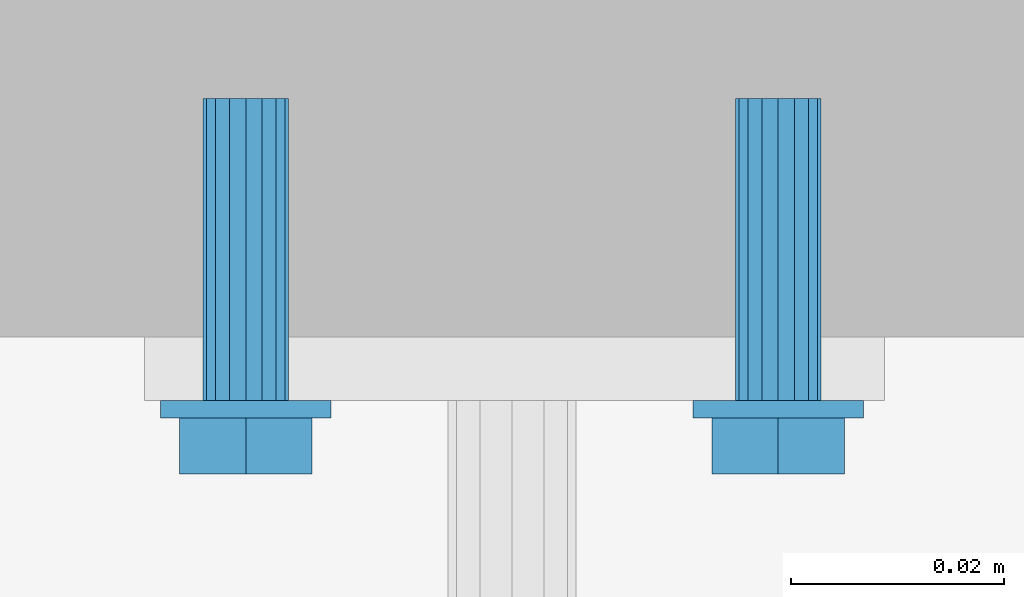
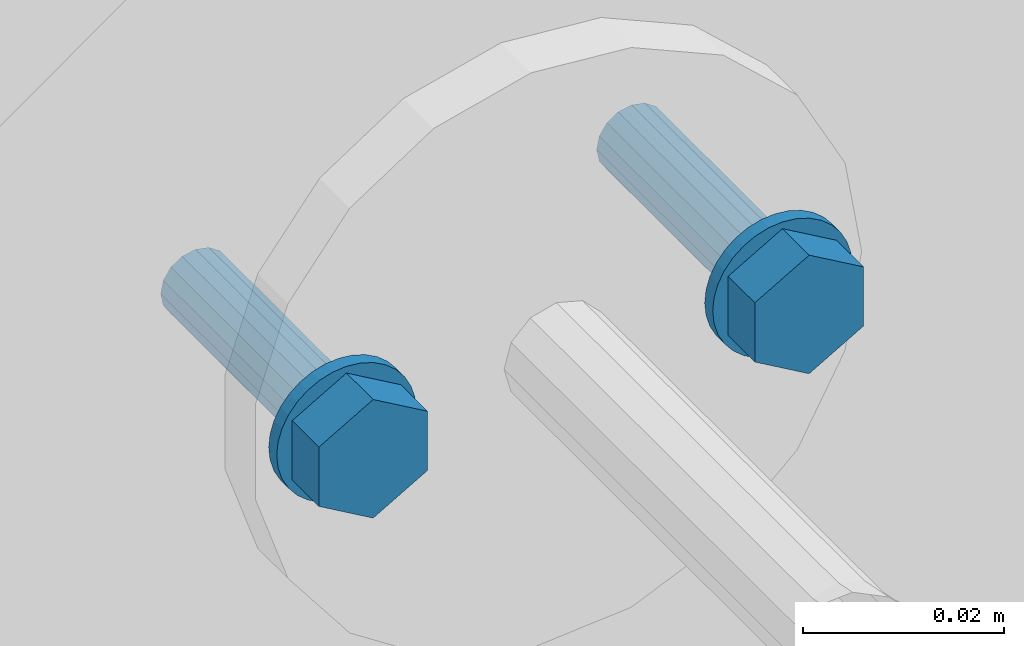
# One storey, part 367 of 410: 1 mechanical fastener.
"""IFC2X3 building model written with IfcOpenShell, lengths in millimetres."""

import ifcopenshell
import ifcopenshell.guid

model = None  # the IFC model being written
_history = None  # IfcOwnerHistory: only IFC2X3 demands one
_inside = {}  # id of a spatial element -> (the spatial element, [elements in it])
_under = {}  # id of a project, library or spatial element -> (it, [spatial elements below it])
_declared = {}  # id of a project -> (the project, [libraries it declares])
_typed = {}  # id of a type object -> (the type object, [elements of that type])
_made_of = {}  # id of a material, layer set ... -> (it, [elements and type objects made of it])


def new_model(schema):
    """Start an empty IFC model of exactly this schema.

    Asked for "IFC4X3", IfcOpenShell would pick the latest addendum, in which some entities
    have other attributes; the version numbers below select the first issue.
    IFC2X3 requires an IfcOwnerHistory on every rooted entity: one is made here for all.
    """
    global model, _history
    if schema == "IFC4X3":
        model = ifcopenshell.file(schema_version=(4, 3, 0, 0))
    else:
        model = ifcopenshell.file(schema=schema)
    _inside.clear()
    _under.clear()
    _declared.clear()
    _typed.clear()
    _made_of.clear()
    _history = None
    if model.schema == "IFC2X3":
        org = make("IfcOrganization", Name="unknown")
        user = make(
            "IfcPersonAndOrganization",
            ThePerson=make("IfcPerson", FamilyName="unknown"),
            TheOrganization=org,
        )
        app = make(
            "IfcApplication",
            ApplicationDeveloper=org,
            Version="unknown",
            ApplicationFullName="unknown",
            ApplicationIdentifier="unknown",
        )
        _history = make(
            "IfcOwnerHistory",
            OwningUser=user,
            OwningApplication=app,
            ChangeAction="ADDED",
            CreationDate=0,
        )
    return model


def make(cls, **values):
    """One entity of the class cls with the attributes given. An attribute that is None is left unset."""
    return model.create_entity(
        cls, **{name: value for name, value in values.items() if value is not None}
    )


def entity(cls, *values):
    """Any entity or typed value of the class cls, its attributes in the order of the schema. None: left unset."""
    e = model.create_entity(cls)
    for i, value in enumerate(values):
        if value is not None:
            e[i] = value
    return e


def rooted(cls, **values):
    """An entity with a GlobalId (a new one), such as an element, a storey or a relation."""
    return make(cls, GlobalId=ifcopenshell.guid.new(), OwnerHistory=_history, **values)


def si_unit(unit_type, name, prefix=None):
    """IfcSIUnit, for example si_unit("LENGTHUNIT", "METRE", prefix="MILLI")."""
    return make("IfcSIUnit", UnitType=unit_type, Prefix=prefix, Name=name)


def converted_unit(unit_type, name, factor, base, dimensions=None, offset=None):
    """IfcConversionBasedUnit, such as the inch: factor (a typed value) times the base unit."""
    return make(
        "IfcConversionBasedUnit"
        if offset is None
        else "IfcConversionBasedUnitWithOffset",
        ConversionOffset=offset,
        Dimensions=None
        if dimensions is None
        else entity("IfcDimensionalExponents", *dimensions),
        UnitType=unit_type,
        Name=name,
        ConversionFactor=make(
            "IfcMeasureWithUnit", ValueComponent=factor, UnitComponent=base
        ),
    )


def assignment(units):
    """IfcUnitAssignment: the units of a project."""
    return None if units is None else make("IfcUnitAssignment", Units=units)


def point(xyz):
    """IfcCartesianPoint."""
    return None if xyz is None else make("IfcCartesianPoint", Coordinates=xyz)


def direction(xyz):
    """IfcDirection."""
    return None if xyz is None else make("IfcDirection", DirectionRatios=xyz)


def frame(location, z_axis=None, x_axis=None):
    """IfcAxis2Placement3D, a coordinate frame: its origin and axes. An axis left out is left unset."""
    return make(
        "IfcAxis2Placement3D",
        Location=point(location),
        Axis=direction(z_axis),
        RefDirection=direction(x_axis),
    )


def origin_with_axes():
    """The frame at (0, 0, 0) with the z axis (0, 0, 1) and the x axis (1, 0, 0) written out."""
    return frame((0.0, 0.0, 0.0), z_axis=(0.0, 0.0, 1.0), x_axis=(1.0, 0.0, 0.0))


def place(relative_to, where):
    """IfcLocalPlacement: puts the frame where relative to a parent placement (None: the world)."""
    return make(
        "IfcLocalPlacement", PlacementRelTo=relative_to, RelativePlacement=where
    )


def context(
    kind, dimensions, precision=None, world=None, true_north=None, identifier=None
):
    """IfcGeometricRepresentationContext, for example the 3D "Model" context."""
    return make(
        "IfcGeometricRepresentationContext",
        ContextIdentifier=identifier,
        ContextType=kind,
        CoordinateSpaceDimension=dimensions,
        Precision=precision,
        WorldCoordinateSystem=world,
        TrueNorth=true_north,
    )


def project(units=None, contexts=None):
    """IfcProject with its units and contexts."""
    return rooted(
        "IfcProject",
        Name="project",
        RepresentationContexts=contexts,
        UnitsInContext=assignment(units),
    )


def spatial(cls, under=None, at=None, **own):
    """A site, building, storey or space (cls), placed at a placement, below another one or the project."""
    s = rooted(cls, ObjectPlacement=at, **own)
    if under is not None:
        _under.setdefault(under.id(), (under, []))[1].append(s)
    return s


def faces_of(points, faces, orient=None, outer=None):
    """IfcFace entities. A face is a list of loops; a loop is a list of indices into points, from 0.

    orient and outer hold one flag for each loop. By default every Orientation is true, the
    first loop of a face is its IfcFaceOuterBound and the others are IfcFaceBound.
    """
    made = []
    for i, loops in enumerate(faces):
        bounds = []
        for j, loop in enumerate(loops):
            is_outer = j == 0 if outer is None else outer[i][j]
            bounds.append(
                make(
                    "IfcFaceOuterBound" if is_outer else "IfcFaceBound",
                    Bound=make("IfcPolyLoop", Polygon=[points[k] for k in loop]),
                    Orientation=True if orient is None else orient[i][j],
                )
            )
        made.append(make("IfcFace", Bounds=bounds))
    return made


def faceted_brep(points, faces, orient=None, outer=None, voids=None):
    """IfcFacetedBrep: a solid bounded by flat faces; with voids (closed shells), ...WithVoids."""
    shared = [point(p) for p in points]
    hull = make("IfcClosedShell", CfsFaces=faces_of(shared, faces, orient, outer))
    if voids is None:
        return make("IfcFacetedBrep", Outer=hull)
    return make(
        "IfcFacetedBrepWithVoids",
        Outer=hull,
        Voids=[
            make(cls, CfsFaces=faces_of(shared, fs, o, b)) for cls, fs, o, b in voids
        ],
    )


def shape(context_of_items, identifier, shape_type, items):
    """IfcShapeRepresentation: the items that make up one representation, for example the "Body"."""
    return make(
        "IfcShapeRepresentation",
        ContextOfItems=context_of_items,
        RepresentationIdentifier=identifier,
        RepresentationType=shape_type,
        Items=items,
    )


def made_of(thing, what):
    """Note that an element or type object is made of a material, layer set ...; save() writes the relation."""
    if what is not None:
        _made_of.setdefault(what.id(), (what, []))[1].append(thing)
    return thing


def element(
    cls,
    number,
    at=None,
    inside=None,
    cuts=None,
    type_object=None,
    material=None,
    context=None,
    identifier="Body",
    shape_type=None,
    held_by="IfcProductDefinitionShape",
    body=None,
    shapes=None,
    **own,
):
    """One element of the class cls, such as IfcWall. Its Tag is "e" and its number.

    at: its placement. inside: the storey or other place that contains it. cuts: it is an
    opening in that element (IfcRelVoidsElement). A single representation is given by context,
    identifier, shape_type and body (its items); several are given by shapes. held_by: the class
    of the entity that holds the representations. save() writes the other relations.
    """
    e = rooted(cls, Tag="e%d" % number, ObjectPlacement=at, **own)
    if body is not None:
        shapes = [shape(context, identifier, shape_type, body)]
    if shapes is not None:
        e.Representation = make(held_by, Representations=shapes)
    if inside is not None:
        _inside.setdefault(inside.id(), (inside, []))[1].append(e)
    if cuts is not None:
        rooted(
            "IfcRelVoidsElement", RelatingBuildingElement=cuts, RelatedOpeningElement=e
        )
    if type_object is not None:
        _typed.setdefault(type_object.id(), (type_object, []))[1].append(e)
    return made_of(e, material)


def aggregate(whole, parts):
    """IfcRelAggregates: a whole, such as a stair, and the parts it consists of."""
    return rooted("IfcRelAggregates", RelatingObject=whole, RelatedObjects=parts)


def save(model, path):
    """Write the relations noted so far, then the file.

    IfcRelAggregates (storeys below a building ...), IfcRelContainedInSpatialStructure (elements
    in a storey), IfcRelDefinesByType, IfcRelAssociatesMaterial and IfcRelDeclares: one each for
    every whole, place, type object, material and project.
    """
    for whole, parts in _under.values():
        aggregate(whole, parts)
    for where, things in _inside.values():
        rooted(
            "IfcRelContainedInSpatialStructure",
            RelatedElements=things,
            RelatingStructure=where,
        )
    for kind, things in _typed.values():
        rooted("IfcRelDefinesByType", RelatedObjects=things, RelatingType=kind)
    for what, things in _made_of.values():
        rooted("IfcRelAssociatesMaterial", RelatedObjects=things, RelatingMaterial=what)
    for by, libraries in _declared.values():
        rooted("IfcRelDeclares", RelatingContext=by, RelatedDefinitions=libraries)
    model.write(path)


model = new_model("IFC2X3")

# Units and contexts
model_context = context("Model", 3, precision=1e-09, world=origin_with_axes())
ifc_project = project(units=[si_unit("LENGTHUNIT", "METRE", prefix="MILLI"), si_unit("AREAUNIT", "SQUARE_METRE"), si_unit("VOLUMEUNIT", "CUBIC_METRE"), converted_unit("PLANEANGLEUNIT", "DEGREE", entity("IfcPlaneAngleMeasure", 0.01745329), si_unit("PLANEANGLEUNIT", "RADIAN"), dimensions=[0, 0, 0, 0, 0, 0, 0])], contexts=[model_context])

# Site, building, storey
site_placement = place(None, origin_with_axes())
site = spatial("IfcSite", under=ifc_project, at=site_placement, Name="mKR Teilneubau & Sanierung BA1 - Ostfildern", CompositionType="ELEMENT")
building_placement = place(site_placement, origin_with_axes())
building = spatial("IfcBuilding", under=site, at=building_placement, Name="Struktur 1", CompositionType="ELEMENT")
storey_placement = place(building_placement, origin_with_axes())
storey = spatial("IfcBuildingStorey", under=building, at=storey_placement, Name="Default Storey", CompositionType="ELEMENT", Elevation=0.0)

# Mechanical fastener
mechanical_fastener_placement = place(None, origin_with_axes())
element("IfcMechanicalFastener", 1, at=mechanical_fastener_placement, inside=storey, ObjectType="-", NominalDiameter=8.0, NominalLength=30.0, context=model_context, shape_type="Brep", body=[
    faceted_brep([(3126.999216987, 18612.400061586, -1413.0), (3126.999216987, 18614.000061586, -1413.0), (3127.152934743, 18614.000061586, -1414.560722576), (3127.152934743, 18612.400061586, -1414.560722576), (3127.608180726, 18614.000061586, -1416.061467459), (3127.608180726, 18612.400061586, -1416.061467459), (3128.347460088, 18614.000061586, -1417.444561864), (3128.347460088, 18612.400061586, -1417.444561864), (3129.342362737, 18614.000061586, -1418.65685425), (3129.342362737, 18612.400061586, -1418.65685425), (3130.554655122, 18614.000061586, -1419.651756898), (3130.554655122, 18612.400061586, -1419.651756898), (3131.937749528, 18614.000061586, -1420.39103626), (3131.937749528, 18612.400061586, -1420.39103626), (3133.43849441, 18614.000061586, -1420.846282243), (3133.43849441, 18612.400061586, -1420.846282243), (3134.999216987, 18614.000061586, -1421.0), (3134.999216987, 18612.400061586, -1421.0), (3136.559939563, 18614.000061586, -1420.846282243), (3136.559939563, 18612.400061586, -1420.846282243), (3138.060684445, 18614.000061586, -1420.39103626), (3138.060684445, 18612.400061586, -1420.39103626), (3139.443778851, 18614.000061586, -1419.651756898), (3139.443778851, 18612.400061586, -1419.651756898), (3140.656071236, 18614.000061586, -1418.65685425), (3140.656071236, 18612.400061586, -1418.65685425), (3141.650973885, 18614.000061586, -1417.444561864), (3141.650973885, 18612.400061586, -1417.444561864), (3142.390253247, 18614.000061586, -1416.061467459), (3142.390253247, 18612.400061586, -1416.061467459), (3142.84549923, 18614.000061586, -1414.560722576), (3142.84549923, 18612.400061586, -1414.560722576), (3142.999216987, 18614.000061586, -1413.0), (3142.999216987, 18612.400061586, -1413.0), (3142.84549923, 18614.000061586, -1411.439277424), (3142.84549923, 18612.400061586, -1411.439277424), (3142.390253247, 18614.000061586, -1409.938532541), (3142.390253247, 18612.400061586, -1409.938532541), (3141.650973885, 18614.000061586, -1408.555438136), (3141.650973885, 18612.400061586, -1408.555438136), (3140.656071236, 18614.000061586, -1407.343145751), (3140.656071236, 18612.400061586, -1407.343145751), (3139.443778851, 18614.000061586, -1406.348243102), (3139.443778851, 18612.400061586, -1406.348243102), (3138.060684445, 18614.000061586, -1405.60896374), (3138.060684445, 18612.400061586, -1405.60896374), (3136.559939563, 18614.000061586, -1405.153717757), (3136.559939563, 18612.400061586, -1405.153717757), (3134.999216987, 18614.000061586, -1405.0), (3134.999216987, 18612.400061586, -1405.0), (3133.43849441, 18614.000061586, -1405.153717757), (3133.43849441, 18612.400061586, -1405.153717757), (3131.937749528, 18614.000061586, -1405.60896374), (3131.937749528, 18612.400061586, -1405.60896374), (3130.554655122, 18614.000061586, -1406.348243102), (3130.554655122, 18612.400061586, -1406.348243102), (3129.342362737, 18614.000061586, -1407.343145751), (3129.342362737, 18612.400061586, -1407.343145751), (3128.347460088, 18614.000061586, -1408.555438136), (3128.347460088, 18612.400061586, -1408.555438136), (3127.608180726, 18614.000061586, -1409.938532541), (3127.608180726, 18612.400061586, -1409.938532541), (3127.152934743, 18614.000061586, -1411.439277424), (3127.152934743, 18612.400061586, -1411.439277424)], [[[0, 1, 2, 3]], [[3, 2, 4, 5]], [[5, 4, 6, 7]], [[7, 6, 8, 9]], [[9, 8, 10, 11]], [[11, 10, 12, 13]], [[13, 12, 14, 15]], [[15, 14, 16, 17]], [[17, 16, 18, 19]], [[19, 18, 20, 21]], [[21, 20, 22, 23]], [[23, 22, 24, 25]], [[25, 24, 26, 27]], [[27, 26, 28, 29]], [[29, 28, 30, 31]], [[31, 30, 32, 33]], [[33, 32, 34, 35]], [[35, 34, 36, 37]], [[37, 36, 38, 39]], [[39, 38, 40, 41]], [[41, 40, 42, 43]], [[43, 42, 44, 45]], [[45, 44, 46, 47]], [[47, 46, 48, 49]], [[49, 48, 50, 51]], [[51, 50, 52, 53]], [[53, 52, 54, 55]], [[55, 54, 56, 57]], [[57, 56, 58, 59]], [[59, 58, 60, 61]], [[61, 60, 62, 63]], [[63, 62, 1, 0]], [[0, 3, 5, 7, 9, 11, 13, 15, 17, 19, 21, 23, 25, 27, 29, 31, 33, 35, 37, 39, 41, 43, 45, 47, 49, 51, 53, 55, 57, 59, 61, 63]], [[1, 62, 60, 58, 56, 54, 52, 50, 48, 46, 44, 42, 40, 38, 36, 34, 32, 30, 28, 26, 24, 22, 20, 18, 16, 14, 12, 10, 8, 6, 4, 2]]]),
    faceted_brep([(3076.999216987, 18612.400061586, -1413.0), (3076.999216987, 18614.000061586, -1413.0), (3077.152934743, 18614.000061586, -1414.560722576), (3077.152934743, 18612.400061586, -1414.560722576), (3077.608180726, 18614.000061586, -1416.061467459), (3077.608180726, 18612.400061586, -1416.061467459), (3078.347460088, 18614.000061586, -1417.444561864), (3078.347460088, 18612.400061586, -1417.444561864), (3079.342362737, 18614.000061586, -1418.65685425), (3079.342362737, 18612.400061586, -1418.65685425), (3080.554655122, 18614.000061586, -1419.651756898), (3080.554655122, 18612.400061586, -1419.651756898), (3081.937749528, 18614.000061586, -1420.39103626), (3081.937749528, 18612.400061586, -1420.39103626), (3083.43849441, 18614.000061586, -1420.846282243), (3083.43849441, 18612.400061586, -1420.846282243), (3084.999216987, 18614.000061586, -1421.0), (3084.999216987, 18612.400061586, -1421.0), (3086.559939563, 18614.000061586, -1420.846282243), (3086.559939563, 18612.400061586, -1420.846282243), (3088.060684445, 18614.000061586, -1420.39103626), (3088.060684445, 18612.400061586, -1420.39103626), (3089.443778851, 18614.000061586, -1419.651756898), (3089.443778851, 18612.400061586, -1419.651756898), (3090.656071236, 18614.000061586, -1418.65685425), (3090.656071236, 18612.400061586, -1418.65685425), (3091.650973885, 18614.000061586, -1417.444561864), (3091.650973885, 18612.400061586, -1417.444561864), (3092.390253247, 18614.000061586, -1416.061467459), (3092.390253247, 18612.400061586, -1416.061467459), (3092.84549923, 18614.000061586, -1414.560722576), (3092.84549923, 18612.400061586, -1414.560722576), (3092.999216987, 18614.000061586, -1413.0), (3092.999216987, 18612.400061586, -1413.0), (3092.84549923, 18614.000061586, -1411.439277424), (3092.84549923, 18612.400061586, -1411.439277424), (3092.390253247, 18614.000061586, -1409.938532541), (3092.390253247, 18612.400061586, -1409.938532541), (3091.650973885, 18614.000061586, -1408.555438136), (3091.650973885, 18612.400061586, -1408.555438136), (3090.656071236, 18614.000061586, -1407.343145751), (3090.656071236, 18612.400061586, -1407.343145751), (3089.443778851, 18614.000061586, -1406.348243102), (3089.443778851, 18612.400061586, -1406.348243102), (3088.060684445, 18614.000061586, -1405.60896374), (3088.060684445, 18612.400061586, -1405.60896374), (3086.559939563, 18614.000061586, -1405.153717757), (3086.559939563, 18612.400061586, -1405.153717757), (3084.999216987, 18614.000061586, -1405.0), (3084.999216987, 18612.400061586, -1405.0), (3083.43849441, 18614.000061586, -1405.153717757), (3083.43849441, 18612.400061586, -1405.153717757), (3081.937749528, 18614.000061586, -1405.60896374), (3081.937749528, 18612.400061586, -1405.60896374), (3080.554655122, 18614.000061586, -1406.348243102), (3080.554655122, 18612.400061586, -1406.348243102), (3079.342362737, 18614.000061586, -1407.343145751), (3079.342362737, 18612.400061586, -1407.343145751), (3078.347460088, 18614.000061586, -1408.555438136), (3078.347460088, 18612.400061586, -1408.555438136), (3077.608180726, 18614.000061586, -1409.938532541), (3077.608180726, 18612.400061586, -1409.938532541), (3077.152934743, 18614.000061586, -1411.439277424), (3077.152934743, 18612.400061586, -1411.439277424)], [[[0, 1, 2, 3]], [[3, 2, 4, 5]], [[5, 4, 6, 7]], [[7, 6, 8, 9]], [[9, 8, 10, 11]], [[11, 10, 12, 13]], [[13, 12, 14, 15]], [[15, 14, 16, 17]], [[17, 16, 18, 19]], [[19, 18, 20, 21]], [[21, 20, 22, 23]], [[23, 22, 24, 25]], [[25, 24, 26, 27]], [[27, 26, 28, 29]], [[29, 28, 30, 31]], [[31, 30, 32, 33]], [[33, 32, 34, 35]], [[35, 34, 36, 37]], [[37, 36, 38, 39]], [[39, 38, 40, 41]], [[41, 40, 42, 43]], [[43, 42, 44, 45]], [[45, 44, 46, 47]], [[47, 46, 48, 49]], [[49, 48, 50, 51]], [[51, 50, 52, 53]], [[53, 52, 54, 55]], [[55, 54, 56, 57]], [[57, 56, 58, 59]], [[59, 58, 60, 61]], [[61, 60, 62, 63]], [[63, 62, 1, 0]], [[0, 3, 5, 7, 9, 11, 13, 15, 17, 19, 21, 23, 25, 27, 29, 31, 33, 35, 37, 39, 41, 43, 45, 47, 49, 51, 53, 55, 57, 59, 61, 63]], [[1, 62, 60, 58, 56, 54, 52, 50, 48, 46, 44, 42, 40, 38, 36, 34, 32, 30, 28, 26, 24, 22, 20, 18, 16, 14, 12, 10, 8, 6, 4, 2]]]),
    faceted_brep([(3141.22593964, 18612.400061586, -1416.595), (3141.22593964, 18607.100061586, -1416.595), (3134.999216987, 18607.100061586, -1420.19), (3134.999216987, 18612.400061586, -1420.19), (3128.772494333, 18607.100061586, -1416.595), (3128.772494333, 18612.400061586, -1416.595), (3128.772494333, 18607.100061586, -1409.405), (3128.772494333, 18612.400061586, -1409.405), (3134.999216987, 18607.100061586, -1405.81), (3134.999216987, 18612.400061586, -1405.81), (3141.22593964, 18607.100061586, -1409.405), (3141.22593964, 18612.400061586, -1409.405)], [[[0, 1, 2, 3]], [[3, 2, 4, 5]], [[5, 4, 6, 7]], [[7, 6, 8, 9]], [[9, 8, 10, 11]], [[11, 10, 1, 0]], [[4, 2, 1, 10, 8, 6]], [[0, 3, 5, 7, 9, 11]]]),
    faceted_brep([(3091.22593964, 18612.400061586, -1416.595), (3091.22593964, 18607.100061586, -1416.595), (3084.999216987, 18607.100061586, -1420.19), (3084.999216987, 18612.400061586, -1420.19), (3078.772494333, 18607.100061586, -1416.595), (3078.772494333, 18612.400061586, -1416.595), (3078.772494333, 18607.100061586, -1409.405), (3078.772494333, 18612.400061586, -1409.405), (3084.999216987, 18607.100061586, -1405.81), (3084.999216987, 18612.400061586, -1405.81), (3091.22593964, 18607.100061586, -1409.405), (3091.22593964, 18612.400061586, -1409.405)], [[[0, 1, 2, 3]], [[3, 2, 4, 5]], [[5, 4, 6, 7]], [[7, 6, 8, 9]], [[9, 8, 10, 11]], [[11, 10, 1, 0]], [[4, 2, 1, 10, 8, 6]], [[0, 3, 5, 7, 9, 11]]]),
    faceted_brep([(3130.999216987, 18614.000061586, -1413.0), (3130.999216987, 18624.000061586, -1413.0), (3131.303698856, 18624.000061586, -1414.530733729), (3131.303698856, 18614.000061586, -1414.530733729), (3132.170789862, 18624.000061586, -1415.828427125), (3132.170789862, 18614.000061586, -1415.828427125), (3133.468483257, 18624.000061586, -1416.69551813), (3133.468483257, 18614.000061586, -1416.69551813), (3134.999216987, 18624.000061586, -1417.0), (3134.999216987, 18614.000061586, -1417.0), (3136.529950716, 18624.000061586, -1416.69551813), (3136.529950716, 18614.000061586, -1416.69551813), (3137.827644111, 18624.000061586, -1415.828427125), (3137.827644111, 18614.000061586, -1415.828427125), (3138.694735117, 18624.000061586, -1414.530733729), (3138.694735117, 18614.000061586, -1414.530733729), (3138.999216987, 18624.000061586, -1413.0), (3138.999216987, 18614.000061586, -1413.0), (3138.694735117, 18624.000061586, -1411.469266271), (3138.694735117, 18614.000061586, -1411.469266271), (3137.827644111, 18624.000061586, -1410.171572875), (3137.827644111, 18614.000061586, -1410.171572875), (3136.529950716, 18624.000061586, -1409.30448187), (3136.529950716, 18614.000061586, -1409.30448187), (3134.999216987, 18624.000061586, -1409.0), (3134.999216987, 18614.000061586, -1409.0), (3133.468483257, 18624.000061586, -1409.30448187), (3133.468483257, 18614.000061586, -1409.30448187), (3132.170789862, 18624.000061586, -1410.171572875), (3132.170789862, 18614.000061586, -1410.171572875), (3131.303698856, 18624.000061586, -1411.469266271), (3131.303698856, 18614.000061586, -1411.469266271)], [[[0, 1, 2, 3]], [[3, 2, 4, 5]], [[5, 4, 6, 7]], [[7, 6, 8, 9]], [[9, 8, 10, 11]], [[11, 10, 12, 13]], [[13, 12, 14, 15]], [[15, 14, 16, 17]], [[17, 16, 18, 19]], [[19, 18, 20, 21]], [[21, 20, 22, 23]], [[23, 22, 24, 25]], [[25, 24, 26, 27]], [[27, 26, 28, 29]], [[29, 28, 30, 31]], [[31, 30, 1, 0]], [[0, 3, 5, 7, 9, 11, 13, 15, 17, 19, 21, 23, 25, 27, 29, 31]], [[1, 30, 28, 26, 24, 22, 20, 18, 16, 14, 12, 10, 8, 6, 4, 2]]]),
    faceted_brep([(3080.999216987, 18614.000061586, -1413.0), (3080.999216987, 18624.000061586, -1413.0), (3081.303698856, 18624.000061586, -1414.530733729), (3081.303698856, 18614.000061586, -1414.530733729), (3082.170789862, 18624.000061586, -1415.828427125), (3082.170789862, 18614.000061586, -1415.828427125), (3083.468483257, 18624.000061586, -1416.69551813), (3083.468483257, 18614.000061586, -1416.69551813), (3084.999216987, 18624.000061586, -1417.0), (3084.999216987, 18614.000061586, -1417.0), (3086.529950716, 18624.000061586, -1416.69551813), (3086.529950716, 18614.000061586, -1416.69551813), (3087.827644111, 18624.000061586, -1415.828427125), (3087.827644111, 18614.000061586, -1415.828427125), (3088.694735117, 18624.000061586, -1414.530733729), (3088.694735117, 18614.000061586, -1414.530733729), (3088.999216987, 18624.000061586, -1413.0), (3088.999216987, 18614.000061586, -1413.0), (3088.694735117, 18624.000061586, -1411.469266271), (3088.694735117, 18614.000061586, -1411.469266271), (3087.827644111, 18624.000061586, -1410.171572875), (3087.827644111, 18614.000061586, -1410.171572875), (3086.529950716, 18624.000061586, -1409.30448187), (3086.529950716, 18614.000061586, -1409.30448187), (3084.999216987, 18624.000061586, -1409.0), (3084.999216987, 18614.000061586, -1409.0), (3083.468483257, 18624.000061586, -1409.30448187), (3083.468483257, 18614.000061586, -1409.30448187), (3082.170789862, 18624.000061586, -1410.171572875), (3082.170789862, 18614.000061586, -1410.171572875), (3081.303698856, 18624.000061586, -1411.469266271), (3081.303698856, 18614.000061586, -1411.469266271)], [[[0, 1, 2, 3]], [[3, 2, 4, 5]], [[5, 4, 6, 7]], [[7, 6, 8, 9]], [[9, 8, 10, 11]], [[11, 10, 12, 13]], [[13, 12, 14, 15]], [[15, 14, 16, 17]], [[17, 16, 18, 19]], [[19, 18, 20, 21]], [[21, 20, 22, 23]], [[23, 22, 24, 25]], [[25, 24, 26, 27]], [[27, 26, 28, 29]], [[29, 28, 30, 31]], [[31, 30, 1, 0]], [[0, 3, 5, 7, 9, 11, 13, 15, 17, 19, 21, 23, 25, 27, 29, 31]], [[1, 30, 28, 26, 24, 22, 20, 18, 16, 14, 12, 10, 8, 6, 4, 2]]]),
    faceted_brep([(3130.999216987, 18624.000061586, -1413.0), (3130.999216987, 18642.400061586, -1413.0), (3131.303698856, 18642.400061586, -1414.530733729), (3131.303698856, 18624.000061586, -1414.530733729), (3132.170789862, 18642.400061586, -1415.828427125), (3132.170789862, 18624.000061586, -1415.828427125), (3133.468483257, 18642.400061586, -1416.69551813), (3133.468483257, 18624.000061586, -1416.69551813), (3134.999216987, 18642.400061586, -1417.0), (3134.999216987, 18624.000061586, -1417.0), (3136.529950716, 18642.400061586, -1416.69551813), (3136.529950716, 18624.000061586, -1416.69551813), (3137.827644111, 18642.400061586, -1415.828427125), (3137.827644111, 18624.000061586, -1415.828427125), (3138.694735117, 18642.400061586, -1414.530733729), (3138.694735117, 18624.000061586, -1414.530733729), (3138.999216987, 18642.400061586, -1413.0), (3138.999216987, 18624.000061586, -1413.0), (3138.694735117, 18642.400061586, -1411.469266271), (3138.694735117, 18624.000061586, -1411.469266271), (3137.827644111, 18642.400061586, -1410.171572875), (3137.827644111, 18624.000061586, -1410.171572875), (3136.529950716, 18642.400061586, -1409.30448187), (3136.529950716, 18624.000061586, -1409.30448187), (3134.999216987, 18642.400061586, -1409.0), (3134.999216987, 18624.000061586, -1409.0), (3133.468483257, 18642.400061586, -1409.30448187), (3133.468483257, 18624.000061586, -1409.30448187), (3132.170789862, 18642.400061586, -1410.171572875), (3132.170789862, 18624.000061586, -1410.171572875), (3131.303698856, 18642.400061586, -1411.469266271), (3131.303698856, 18624.000061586, -1411.469266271)], [[[0, 1, 2, 3]], [[3, 2, 4, 5]], [[5, 4, 6, 7]], [[7, 6, 8, 9]], [[9, 8, 10, 11]], [[11, 10, 12, 13]], [[13, 12, 14, 15]], [[15, 14, 16, 17]], [[17, 16, 18, 19]], [[19, 18, 20, 21]], [[21, 20, 22, 23]], [[23, 22, 24, 25]], [[25, 24, 26, 27]], [[27, 26, 28, 29]], [[29, 28, 30, 31]], [[31, 30, 1, 0]], [[0, 3, 5, 7, 9, 11, 13, 15, 17, 19, 21, 23, 25, 27, 29, 31]], [[1, 30, 28, 26, 24, 22, 20, 18, 16, 14, 12, 10, 8, 6, 4, 2]]]),
    faceted_brep([(3080.999216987, 18624.000061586, -1413.0), (3080.999216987, 18642.400061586, -1413.0), (3081.303698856, 18642.400061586, -1414.530733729), (3081.303698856, 18624.000061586, -1414.530733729), (3082.170789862, 18642.400061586, -1415.828427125), (3082.170789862, 18624.000061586, -1415.828427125), (3083.468483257, 18642.400061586, -1416.69551813), (3083.468483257, 18624.000061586, -1416.69551813), (3084.999216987, 18642.400061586, -1417.0), (3084.999216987, 18624.000061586, -1417.0), (3086.529950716, 18642.400061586, -1416.69551813), (3086.529950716, 18624.000061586, -1416.69551813), (3087.827644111, 18642.400061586, -1415.828427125), (3087.827644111, 18624.000061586, -1415.828427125), (3088.694735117, 18642.400061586, -1414.530733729), (3088.694735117, 18624.000061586, -1414.530733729), (3088.999216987, 18642.400061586, -1413.0), (3088.999216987, 18624.000061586, -1413.0), (3088.694735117, 18642.400061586, -1411.469266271), (3088.694735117, 18624.000061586, -1411.469266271), (3087.827644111, 18642.400061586, -1410.171572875), (3087.827644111, 18624.000061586, -1410.171572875), (3086.529950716, 18642.400061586, -1409.30448187), (3086.529950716, 18624.000061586, -1409.30448187), (3084.999216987, 18642.400061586, -1409.0), (3084.999216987, 18624.000061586, -1409.0), (3083.468483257, 18642.400061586, -1409.30448187), (3083.468483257, 18624.000061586, -1409.30448187), (3082.170789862, 18642.400061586, -1410.171572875), (3082.170789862, 18624.000061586, -1410.171572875), (3081.303698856, 18642.400061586, -1411.469266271), (3081.303698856, 18624.000061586, -1411.469266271)], [[[0, 1, 2, 3]], [[3, 2, 4, 5]], [[5, 4, 6, 7]], [[7, 6, 8, 9]], [[9, 8, 10, 11]], [[11, 10, 12, 13]], [[13, 12, 14, 15]], [[15, 14, 16, 17]], [[17, 16, 18, 19]], [[19, 18, 20, 21]], [[21, 20, 22, 23]], [[23, 22, 24, 25]], [[25, 24, 26, 27]], [[27, 26, 28, 29]], [[29, 28, 30, 31]], [[31, 30, 1, 0]], [[0, 3, 5, 7, 9, 11, 13, 15, 17, 19, 21, 23, 25, 27, 29, 31]], [[1, 30, 28, 26, 24, 22, 20, 18, 16, 14, 12, 10, 8, 6, 4, 2]]]),
])

save(model, "model.ifc")
